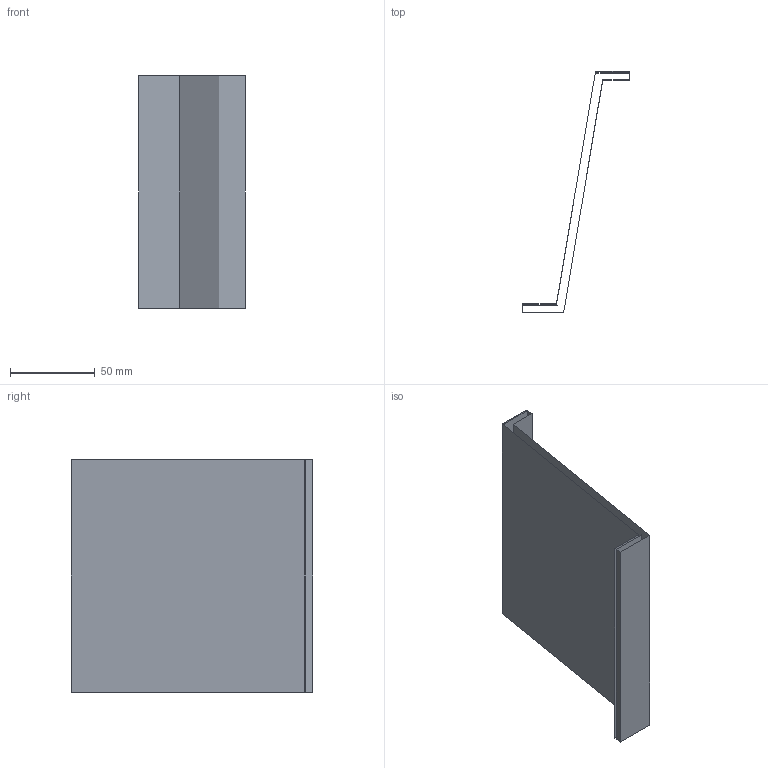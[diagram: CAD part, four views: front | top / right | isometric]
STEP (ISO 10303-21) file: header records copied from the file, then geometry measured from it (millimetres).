
FILE_DESCRIPTION(('CATIA V5 STEP Exchange'),'2;1');
FILE_NAME('C:\_Andres\UNIVERSIDAD\IQS\ASIGNATURAS\DAO\EXF\EXF-16172c\2inicio\Garcia_Granada_Ej06_v37.stp','2017-03-05T21:01:30+00:00',('none'),('none'),'CATIA Version 5-6 Release 2014 SP1 HF18','CATIA V5 STEP AP203','none');
FILE_SCHEMA(('CONFIG_CONTROL_DESIGN'));
Length unit declared in the file: millimetre
Products named in the file (1): Garcia_Granada_Ej06_v37
Bounding box: 63 x 142 x 137 mm (x, y, z)
Surface area: 55599.3 mm2 (no closed solid volume)
Topology: 0 solids, 2 shells, 10 faces, 42 edges, 36 vertices
Faces by surface type: plane 10
Entity records: 461 total; most frequent: CARTESIAN_POINT 100, DIRECTION 59, ORIENTED_EDGE 40, VECTOR 39, LINE 39, EDGE_CURVE 32, VERTEX_POINT 24, AXIS2_PLACEMENT_3D 11
